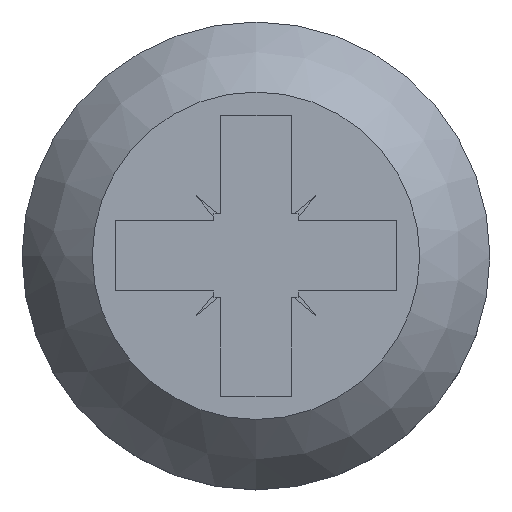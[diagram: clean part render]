
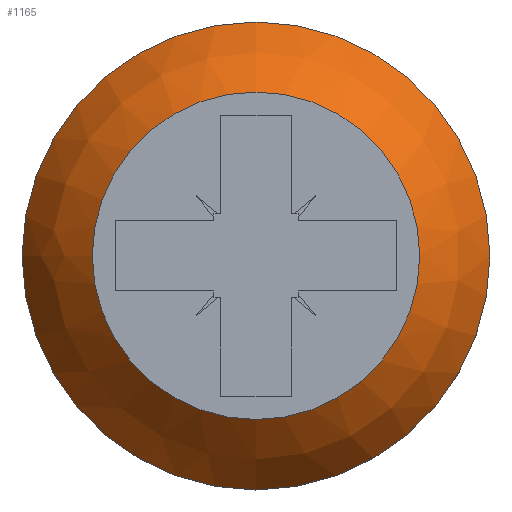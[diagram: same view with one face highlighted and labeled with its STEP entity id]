
A CAD part, top view. The second image highlights one B-rep face of the part: STEP entity #1165.
In plain terms, the highlighted spherical face has radius 2.948 mm.
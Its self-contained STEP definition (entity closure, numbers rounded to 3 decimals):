
#16=SPHERICAL_SURFACE('',#1244,2.948);
#113=FACE_OUTER_BOUND('',#172,.T.);
#172=EDGE_LOOP('',(#1072,#1073,#1074,#1075,#1076));
#184=CIRCLE('',#1243,1.855);
#185=CIRCLE('',#1245,2.948);
#186=CIRCLE('',#1246,2.65);
#187=CIRCLE('',#1247,2.65);
#574=VERTEX_POINT('',#9019);
#575=VERTEX_POINT('',#9022);
#576=VERTEX_POINT('',#9024);
#743=EDGE_CURVE('',#574,#574,#184,.T.);
#744=EDGE_CURVE('',#574,#575,#185,.T.);
#745=EDGE_CURVE('',#576,#575,#186,.T.);
#746=EDGE_CURVE('',#575,#576,#187,.T.);
#1072=ORIENTED_EDGE('',*,*,#743,.T.);
#1073=ORIENTED_EDGE('',*,*,#744,.T.);
#1074=ORIENTED_EDGE('',*,*,#745,.F.);
#1075=ORIENTED_EDGE('',*,*,#746,.F.);
#1076=ORIENTED_EDGE('',*,*,#744,.F.);
#1165=ADVANCED_FACE('',(#113),#16,.T.);
#1243=AXIS2_PLACEMENT_3D('',#9020,#1485,#1486);
#1244=AXIS2_PLACEMENT_3D('',#9021,#1487,#1488);
#1245=AXIS2_PLACEMENT_3D('',#9023,#1489,#1490);
#1246=AXIS2_PLACEMENT_3D('',#9025,#1491,#1492);
#1247=AXIS2_PLACEMENT_3D('',#9026,#1493,#1494);
#1485=DIRECTION('center_axis',(0.,0.,-1.));
#1486=DIRECTION('ref_axis',(1.,0.,0.));
#1487=DIRECTION('center_axis',(0.,0.,1.));
#1488=DIRECTION('ref_axis',(1.,0.,0.));
#1489=DIRECTION('center_axis',(0.,-1.,0.));
#1490=DIRECTION('ref_axis',(-1.,0.,0.));
#1491=DIRECTION('center_axis',(0.,0.,-1.));
#1492=DIRECTION('ref_axis',(1.,0.,0.));
#1493=DIRECTION('center_axis',(0.,0.,-1.));
#1494=DIRECTION('ref_axis',(1.,0.,0.));
#9019=CARTESIAN_POINT('',(-1.855,0.,10.));
#9020=CARTESIAN_POINT('Origin',(0.,0.,10.));
#9021=CARTESIAN_POINT('Origin',(0.,0.,7.709));
#9022=CARTESIAN_POINT('',(-2.65,0.,9.));
#9023=CARTESIAN_POINT('Origin',(0.,0.,7.709));
#9024=CARTESIAN_POINT('',(0.,-2.65,9.));
#9025=CARTESIAN_POINT('Origin',(0.,0.,9.));
#9026=CARTESIAN_POINT('Origin',(0.,0.,9.));
